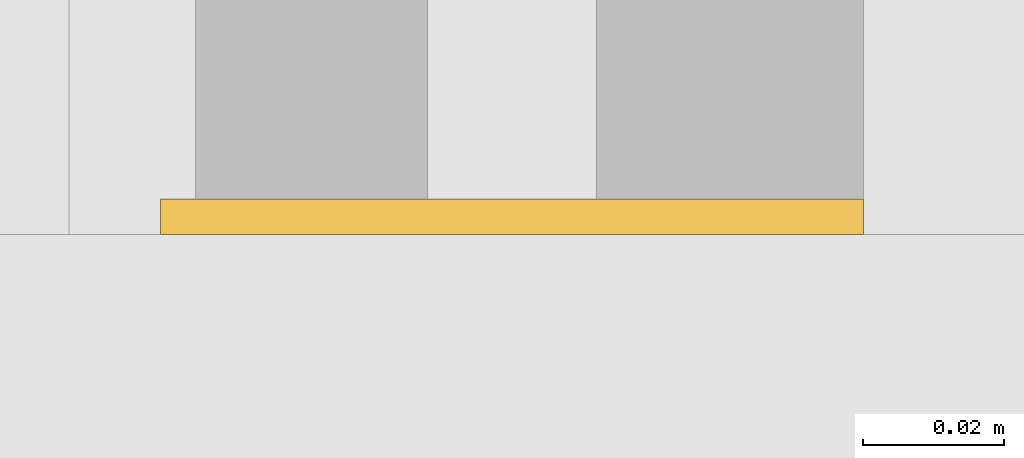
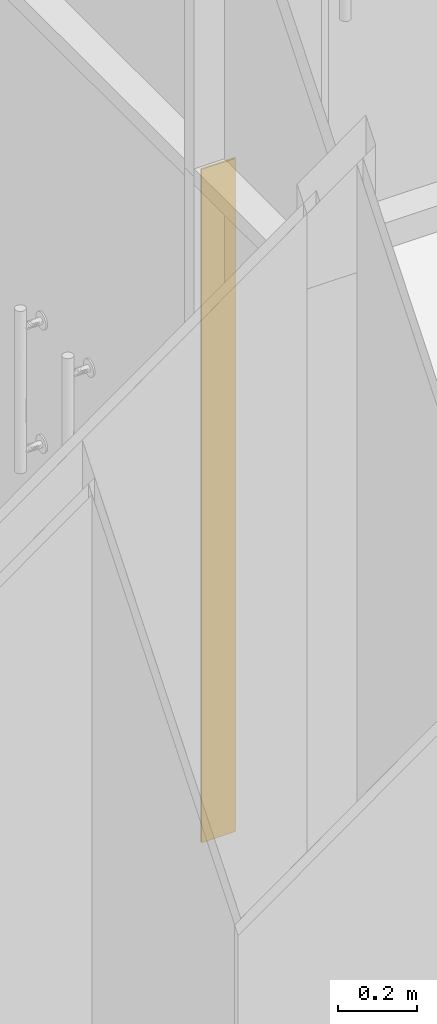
# One storey, part 66 of 74: 1 curtain wall, 1 opening, 1 element without a shape of its own.
"""IFC2X3 building model written with IfcOpenShell, lengths in millimetres."""

from ifc_helpers import new_model, entity, si_unit, converted_unit, derived_unit, direction, frame, frame_2d, origin, place, context, subcontext, project, spatial, rectangle, extrude, material, layer, layer_set, layer_usage, type_object, element, aggregate, save


model = new_model("IFC2X3")

# Units and contexts
model_context = context("Model", 3, precision=0.01, world=origin(), true_north=direction((6.123031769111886e-17, 1.0)))
body_context = subcontext(model_context, "Body", "Model", "MODEL_VIEW")
ifc_project = project(units=[si_unit("LENGTHUNIT", "METRE", prefix="MILLI"), si_unit("AREAUNIT", "SQUARE_METRE"), si_unit("VOLUMEUNIT", "CUBIC_METRE"), converted_unit("PLANEANGLEUNIT", "DEGREE", entity("IfcRatioMeasure", 0.017453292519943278), si_unit("PLANEANGLEUNIT", "RADIAN"), dimensions=[0, 0, 0, 0, 0, 0, 0]), si_unit("MASSUNIT", "GRAM", prefix="KILO"), derived_unit("MASSDENSITYUNIT", [(si_unit("MASSUNIT", "GRAM", prefix="KILO"), 1), (si_unit("LENGTHUNIT", "METRE"), -3)]), derived_unit("MOMENTOFINERTIAUNIT", [(si_unit("LENGTHUNIT", "METRE"), 4)]), si_unit("TIMEUNIT", "SECOND"), si_unit("FREQUENCYUNIT", "HERTZ"), si_unit("THERMODYNAMICTEMPERATUREUNIT", "DEGREE_CELSIUS"), derived_unit("THERMALTRANSMITTANCEUNIT", [(si_unit("MASSUNIT", "GRAM", prefix="KILO"), 1), (si_unit("THERMODYNAMICTEMPERATUREUNIT", "KELVIN"), -1), (si_unit("TIMEUNIT", "SECOND"), -3)]), derived_unit("VOLUMETRICFLOWRATEUNIT", [(si_unit("LENGTHUNIT", "METRE"), 3), (si_unit("TIMEUNIT", "SECOND"), -1)]), derived_unit("MASSFLOWRATEUNIT", [(si_unit("MASSUNIT", "GRAM", prefix="KILO"), 1), (si_unit("TIMEUNIT", "SECOND"), -1)]), derived_unit("ROTATIONALFREQUENCYUNIT", [(si_unit("TIMEUNIT", "SECOND"), -1)]), si_unit("ELECTRICCURRENTUNIT", "AMPERE"), si_unit("ELECTRICVOLTAGEUNIT", "VOLT"), si_unit("POWERUNIT", "WATT"), si_unit("FORCEUNIT", "NEWTON", prefix="KILO"), si_unit("ILLUMINANCEUNIT", "LUX"), si_unit("LUMINOUSFLUXUNIT", "LUMEN"), si_unit("LUMINOUSINTENSITYUNIT", "CANDELA"), derived_unit("USERDEFINED", [(si_unit("MASSUNIT", "GRAM", prefix="KILO"), -1), (si_unit("LENGTHUNIT", "METRE"), -2), (si_unit("TIMEUNIT", "SECOND"), 3), (si_unit("LUMINOUSFLUXUNIT", "LUMEN"), 1)]), derived_unit("SOUNDPOWERUNIT", [(si_unit("MASSUNIT", "GRAM", prefix="KILO"), 1), (si_unit("LENGTHUNIT", "METRE"), 2), (si_unit("TIMEUNIT", "SECOND"), -3)]), derived_unit("SOUNDPRESSUREUNIT", [(si_unit("MASSUNIT", "GRAM", prefix="KILO"), 1), (si_unit("LENGTHUNIT", "METRE"), -1), (si_unit("TIMEUNIT", "SECOND"), -2)]), derived_unit("LINEARVELOCITYUNIT", [(si_unit("LENGTHUNIT", "METRE"), 1), (si_unit("TIMEUNIT", "SECOND"), -1)]), si_unit("PRESSUREUNIT", "PASCAL"), derived_unit("USERDEFINED", [(si_unit("LENGTHUNIT", "METRE"), -2), (si_unit("MASSUNIT", "GRAM", prefix="KILO"), 1), (si_unit("TIMEUNIT", "SECOND"), -2)]), derived_unit("LINEARFORCEUNIT", [(si_unit("MASSUNIT", "GRAM", prefix="KILO"), 1), (si_unit("LENGTHUNIT", "METRE"), 1), (si_unit("TIMEUNIT", "SECOND"), -2), (si_unit("LENGTHUNIT", "METRE"), -1)]), derived_unit("PLANARFORCEUNIT", [(si_unit("MASSUNIT", "GRAM", prefix="KILO"), 1), (si_unit("LENGTHUNIT", "METRE"), 1), (si_unit("TIMEUNIT", "SECOND"), -2), (si_unit("LENGTHUNIT", "METRE"), -2)])], contexts=[model_context])

# Site, building, storey
site_placement = place(None, frame((-14167.972527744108, -657.2125860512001, 0.0)))
site = spatial("IfcSite", under=ifc_project, at=site_placement, Name="Default", CompositionType="ELEMENT")
building_placement = place(site_placement, origin())
building = spatial("IfcBuilding", under=site, at=building_placement, Name="Sample Building", CompositionType="ELEMENT")
storey_placement = place(building_placement, frame((0.0, 0.0, 4800.0)))
storey = spatial("IfcBuildingStorey", under=building, at=storey_placement, Name="지상 2층", CompositionType="ELEMENT", Elevation=4800.000000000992)

# Curtain walls, opening
curtain_wall_type_1 = type_object("IfcCurtainWallType", Name="커튼월:CW112-스테인리스 스틸 커튼월", PredefinedType="NOTDEFINED")
curtain_wall_1_placement = place(storey_placement, frame((0.0, 0.0, -4800.0)))
curtain_wall_1 = element("IfcCurtainWall", 1, at=curtain_wall_1_placement, inside=storey, type_object=curtain_wall_type_1, Name="커튼월:CW112-스테인리스 스틸 커튼월", ObjectType="커튼월:CW112-스테인리스 스틸 커튼월")
ifc_material = material(Name="KBIMS-콘크리트")
ifc_layer = layer(ifc_material, 100.0)
ifc_layer_set = layer_set([ifc_layer], Name="커튼월:CW112-스테인리스 스틸 커튼월")
ifc_layer_usage = layer_usage(ifc_layer_set, "AXIS2", "NEGATIVE", 50.0)
curtain_wall_type_2 = type_object("IfcCurtainWallType", Name="기본 벽:WA111-철근콘크리트구조 벽 100mm", PredefinedType="NOTDEFINED", material=ifc_layer_set)
curtain_wall_2_placement = place(storey_placement, frame((27522.98031454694, 28382.21227524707, 80.0), z_axis=(0.0, 0.0, 1.0), x_axis=(0.0, -1.0, 0.0)))
curtain_wall_2 = element("IfcCurtainWall", 2, at=curtain_wall_2_placement, type_object=curtain_wall_type_2, material=ifc_layer_usage, Name="기본 벽:WA111-철근콘크리트구조 벽 100mm", ObjectType="기본 벽:WA111-철근콘크리트구조 벽 100mm", context=body_context, shape_type="SweptSolid", body=[
    extrude(rectangle(XDim=4.999689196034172, YDim=99.99999999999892, at=frame_2d((2.1656010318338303e-12, 2.1671553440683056e-12), x_axis=(1.0, 0.0))), frame((2.4998445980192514, 0.0, 0.0), z_axis=(0.0, 0.0, 1.0), x_axis=(-1.0, 0.0, 0.0)), (0.0, 0.0, 1.0), 2075.0000000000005),
])
opening_placement = place(curtain_wall_2_placement, frame((0.0, 50.0, -25.0)))
element("IfcOpeningElement", 3, at=opening_placement, cuts=curtain_wall_2, Name="DR121-쌍여닫이문(철재, 일반, 양개):DR121-쌍여닫이문(유리, 일반, 양개) 1500x2100mm:1", ObjectType="Opening", context=body_context, shape_type="SweptSolid", body=[
    extrude(rectangle(XDim=2099.9999999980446, YDim=1500.0, at=frame_2d((1049.9999999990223, 750.0), x_axis=(1.0, 0.0))), frame((0.0, 0.0, 0.0), z_axis=(0.0, -1.0, 0.0), x_axis=(0.0, 0.0, 1.0)), (0.0, 0.0, 1.0), 100.0),
])
aggregate(curtain_wall_1, [curtain_wall_2])

save(model, "model.ifc")
